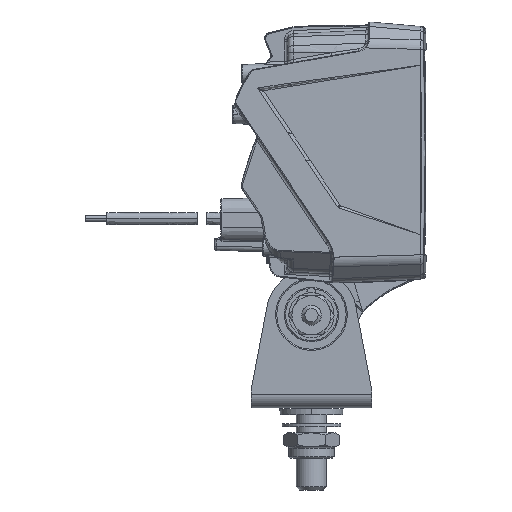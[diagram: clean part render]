
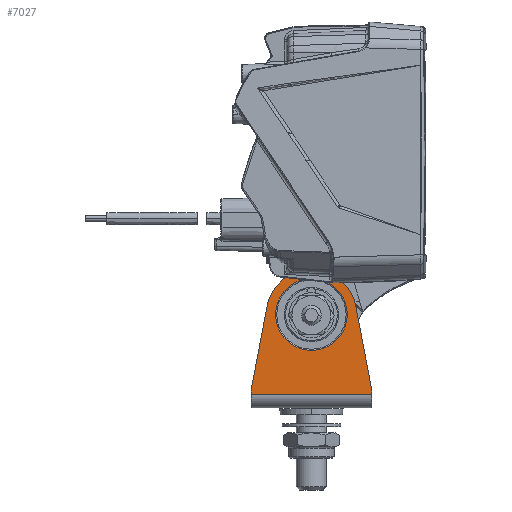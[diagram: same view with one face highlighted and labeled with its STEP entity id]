
A CAD part, front view. The second image highlights one B-rep face of the part: STEP entity #7027.
In plain terms, the highlighted planar face has unit normal (0, -1, 0).
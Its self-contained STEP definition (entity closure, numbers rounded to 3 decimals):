
#5453=AXIS2_PLACEMENT_3D('Plane Axis2P3D',#5450,#5451,#5452) ;
#5613=AXIS2_PLACEMENT_3D('Circle Axis2P3D',#5611,#5612,$) ;
#5635=AXIS2_PLACEMENT_3D('Circle Axis2P3D',#5633,#5634,$) ;
#5782=AXIS2_PLACEMENT_3D('Circle Axis2P3D',#5780,#5781,$) ;
#5789=AXIS2_PLACEMENT_3D('Circle Axis2P3D',#5787,#5788,$) ;
#5450=CARTESIAN_POINT('Axis2P3D Location',(-13.734,-23.998,-84.756)) ;
#5592=CARTESIAN_POINT('Vertex',(-13.734,-23.998,-41.856)) ;
#5608=CARTESIAN_POINT('Vertex',(-13.734,-23.998,-65.656)) ;
#5611=CARTESIAN_POINT('Axis2P3D Location',(-13.734,-23.998,-53.756)) ;
#5633=CARTESIAN_POINT('Axis2P3D Location',(-13.734,-23.998,-53.756)) ;
#5744=CARTESIAN_POINT('Vertex',(-33.734,-23.998,-78.756)) ;
#5749=CARTESIAN_POINT('Line Origine',(-31.103,-23.998,-64.861)) ;
#5753=CARTESIAN_POINT('Vertex',(-28.472,-23.998,-50.966)) ;
#5780=CARTESIAN_POINT('Axis2P3D Location',(-13.734,-23.998,-53.756)) ;
#5784=CARTESIAN_POINT('Vertex',(-13.734,-23.998,-38.756)) ;
#5787=CARTESIAN_POINT('Axis2P3D Location',(-13.734,-23.998,-53.756)) ;
#5791=CARTESIAN_POINT('Vertex',(1.004,-23.998,-50.966)) ;
#5834=CARTESIAN_POINT('Line Origine',(3.635,-23.998,-64.861)) ;
#5838=CARTESIAN_POINT('Vertex',(6.266,-23.998,-78.756)) ;
#6995=CARTESIAN_POINT('Line Origine',(-13.734,-23.998,-80.256)) ;
#6999=CARTESIAN_POINT('Vertex',(-33.734,-23.998,-80.256)) ;
#7001=CARTESIAN_POINT('Vertex',(6.266,-23.998,-80.256)) ;
#7004=CARTESIAN_POINT('Line Origine',(6.266,-23.998,-79.506)) ;
#7009=CARTESIAN_POINT('Line Origine',(-33.734,-23.998,-79.506)) ;
#5451=DIRECTION('Axis2P3D Direction',(0.,1.,0.)) ;
#5452=DIRECTION('Axis2P3D XDirection',(0.,0.,-1.)) ;
#5612=DIRECTION('Axis2P3D Direction',(0.,1.,0.)) ;
#5634=DIRECTION('Axis2P3D Direction',(0.,1.,0.)) ;
#5750=DIRECTION('Vector Direction',(-0.186,0.,-0.983)) ;
#5781=DIRECTION('Axis2P3D Direction',(0.,1.,0.)) ;
#5788=DIRECTION('Axis2P3D Direction',(0.,1.,0.)) ;
#5835=DIRECTION('Vector Direction',(0.186,0.,-0.983)) ;
#6996=DIRECTION('Vector Direction',(-1.,0.,0.)) ;
#7005=DIRECTION('Vector Direction',(0.,0.,1.)) ;
#7010=DIRECTION('Vector Direction',(0.,0.,1.)) ;
#5751=VECTOR('Line Direction',#5750,1.) ;
#5836=VECTOR('Line Direction',#5835,1.) ;
#6997=VECTOR('Line Direction',#6996,1.) ;
#7006=VECTOR('Line Direction',#7005,1.) ;
#7011=VECTOR('Line Direction',#7010,1.) ;
#7015=ORIENTED_EDGE('',*,*,#7003,.T.) ;
#7016=ORIENTED_EDGE('',*,*,#7008,.T.) ;
#7017=ORIENTED_EDGE('',*,*,#5840,.T.) ;
#7018=ORIENTED_EDGE('',*,*,#5793,.T.) ;
#7019=ORIENTED_EDGE('',*,*,#5786,.F.) ;
#7020=ORIENTED_EDGE('',*,*,#5755,.F.) ;
#7021=ORIENTED_EDGE('',*,*,#7013,.F.) ;
#7024=ORIENTED_EDGE('',*,*,#5637,.T.) ;
#7025=ORIENTED_EDGE('',*,*,#5615,.T.) ;
#7026=FACE_BOUND('',#7023,.T.) ;
#7027=ADVANCED_FACE('Bracket',(#7022,#7026),#5454,.F.) ;
#5614=CIRCLE('generated circle',#5613,11.9) ;
#5636=CIRCLE('generated circle',#5635,11.9) ;
#5783=CIRCLE('generated circle',#5782,15.) ;
#5790=CIRCLE('generated circle',#5789,15.) ;
#5615=EDGE_CURVE('',#5593,#5609,#5614,.T.) ;
#5637=EDGE_CURVE('',#5609,#5593,#5636,.T.) ;
#5755=EDGE_CURVE('',#5745,#5754,#5752,.F.) ;
#5786=EDGE_CURVE('',#5754,#5785,#5783,.T.) ;
#5793=EDGE_CURVE('',#5792,#5785,#5790,.F.) ;
#5840=EDGE_CURVE('',#5839,#5792,#5837,.F.) ;
#7003=EDGE_CURVE('',#7000,#7002,#6998,.F.) ;
#7008=EDGE_CURVE('',#7002,#5839,#7007,.T.) ;
#7013=EDGE_CURVE('',#7000,#5745,#7012,.T.) ;
#7014=EDGE_LOOP('',(#7015,#7016,#7017,#7018,#7019,#7020,#7021)) ;
#7023=EDGE_LOOP('',(#7024,#7025)) ;
#7022=FACE_OUTER_BOUND('',#7014,.T.) ;
#5752=LINE('Line',#5749,#5751) ;
#5837=LINE('Line',#5834,#5836) ;
#6998=LINE('Line',#6995,#6997) ;
#7007=LINE('Line',#7004,#7006) ;
#7012=LINE('Line',#7009,#7011) ;
#5454=PLANE('',#5453) ;
#5593=VERTEX_POINT('',#5592) ;
#5609=VERTEX_POINT('',#5608) ;
#5745=VERTEX_POINT('',#5744) ;
#5754=VERTEX_POINT('',#5753) ;
#5785=VERTEX_POINT('',#5784) ;
#5792=VERTEX_POINT('',#5791) ;
#5839=VERTEX_POINT('',#5838) ;
#7000=VERTEX_POINT('',#6999) ;
#7002=VERTEX_POINT('',#7001) ;
